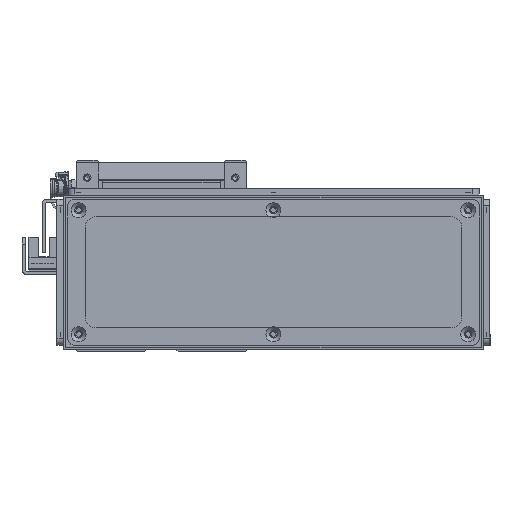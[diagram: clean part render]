
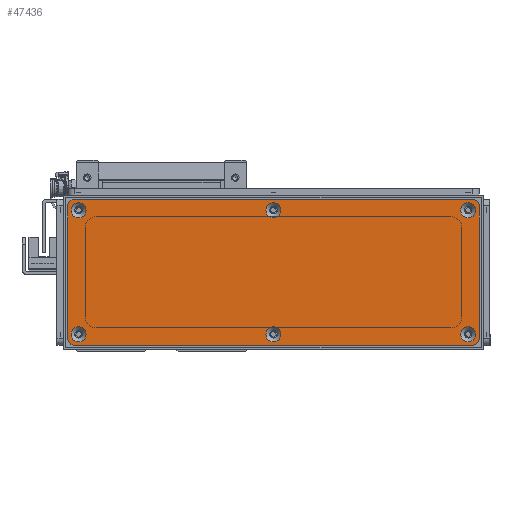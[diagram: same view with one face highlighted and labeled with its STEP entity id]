
A CAD part, front view. The second image highlights one B-rep face of the part: STEP entity #47436.
In plain terms, the highlighted planar face has unit normal (0, -1, 0) as drawn and (0, 0, 1) by its records, which use the part's own axes.
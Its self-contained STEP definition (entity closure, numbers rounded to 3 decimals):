
#2089=FACE_BOUND('',#8442,.T.);
#2090=FACE_BOUND('',#8443,.T.);
#2091=FACE_BOUND('',#8444,.T.);
#2092=FACE_BOUND('',#8445,.T.);
#2093=FACE_BOUND('',#8446,.T.);
#2094=FACE_BOUND('',#8447,.T.);
#2765=PLANE('',#51439);
#5612=FACE_OUTER_BOUND('',#8441,.T.);
#8441=EDGE_LOOP('',(#38723,#38724,#38725,#38726,#38727,#38728,#38729,#38730));
#8442=EDGE_LOOP('',(#38731));
#8443=EDGE_LOOP('',(#38732));
#8444=EDGE_LOOP('',(#38733));
#8445=EDGE_LOOP('',(#38734));
#8446=EDGE_LOOP('',(#38735));
#8447=EDGE_LOOP('',(#38736));
#11721=LINE('',#72791,#16923);
#11724=LINE('',#72799,#16926);
#11727=LINE('',#72807,#16929);
#11730=LINE('',#72814,#16932);
#16923=VECTOR('',#59297,10.);
#16926=VECTOR('',#59306,10.);
#16929=VECTOR('',#59315,10.);
#16932=VECTOR('',#59324,10.);
#21268=CIRCLE('',#51393,3.45);
#21271=CIRCLE('',#51398,3.45);
#21274=CIRCLE('',#51403,3.45);
#21277=CIRCLE('',#51408,3.45);
#21280=CIRCLE('',#51413,3.45);
#21283=CIRCLE('',#51418,3.45);
#21290=CIRCLE('',#51428,3.);
#21291=CIRCLE('',#51431,3.);
#21292=CIRCLE('',#51434,3.);
#21293=CIRCLE('',#51437,3.);
#23530=VERTEX_POINT('',#72707);
#23533=VERTEX_POINT('',#72717);
#23536=VERTEX_POINT('',#72727);
#23539=VERTEX_POINT('',#72737);
#23542=VERTEX_POINT('',#72747);
#23545=VERTEX_POINT('',#72757);
#23556=VERTEX_POINT('',#72784);
#23557=VERTEX_POINT('',#72786);
#23558=VERTEX_POINT('',#72790);
#23559=VERTEX_POINT('',#72794);
#23560=VERTEX_POINT('',#72798);
#23561=VERTEX_POINT('',#72802);
#23562=VERTEX_POINT('',#72806);
#23563=VERTEX_POINT('',#72810);
#28977=EDGE_CURVE('',#23530,#23530,#21268,.T.);
#28982=EDGE_CURVE('',#23533,#23533,#21271,.T.);
#28987=EDGE_CURVE('',#23536,#23536,#21274,.T.);
#28992=EDGE_CURVE('',#23539,#23539,#21277,.T.);
#28997=EDGE_CURVE('',#23542,#23542,#21280,.T.);
#29002=EDGE_CURVE('',#23545,#23545,#21283,.T.);
#29016=EDGE_CURVE('',#23557,#23556,#21290,.T.);
#29018=EDGE_CURVE('',#23558,#23557,#11721,.T.);
#29020=EDGE_CURVE('',#23559,#23558,#21291,.T.);
#29022=EDGE_CURVE('',#23560,#23559,#11724,.T.);
#29024=EDGE_CURVE('',#23561,#23560,#21292,.T.);
#29026=EDGE_CURVE('',#23562,#23561,#11727,.T.);
#29028=EDGE_CURVE('',#23563,#23562,#21293,.T.);
#29030=EDGE_CURVE('',#23556,#23563,#11730,.T.);
#38723=ORIENTED_EDGE('',*,*,#29030,.T.);
#38724=ORIENTED_EDGE('',*,*,#29028,.T.);
#38725=ORIENTED_EDGE('',*,*,#29026,.T.);
#38726=ORIENTED_EDGE('',*,*,#29024,.T.);
#38727=ORIENTED_EDGE('',*,*,#29022,.T.);
#38728=ORIENTED_EDGE('',*,*,#29020,.T.);
#38729=ORIENTED_EDGE('',*,*,#29018,.T.);
#38730=ORIENTED_EDGE('',*,*,#29016,.T.);
#38731=ORIENTED_EDGE('',*,*,#28977,.T.);
#38732=ORIENTED_EDGE('',*,*,#28982,.T.);
#38733=ORIENTED_EDGE('',*,*,#28987,.T.);
#38734=ORIENTED_EDGE('',*,*,#28992,.T.);
#38735=ORIENTED_EDGE('',*,*,#28997,.T.);
#38736=ORIENTED_EDGE('',*,*,#29002,.T.);
#47436=ADVANCED_FACE('',(#5612,#2089,#2090,#2091,#2092,#2093,#2094),#2765,
 .T.);
#51393=AXIS2_PLACEMENT_3D('',#72708,#59205,#59206);
#51398=AXIS2_PLACEMENT_3D('',#72718,#59217,#59218);
#51403=AXIS2_PLACEMENT_3D('',#72728,#59229,#59230);
#51408=AXIS2_PLACEMENT_3D('',#72738,#59241,#59242);
#51413=AXIS2_PLACEMENT_3D('',#72748,#59253,#59254);
#51418=AXIS2_PLACEMENT_3D('',#72758,#59265,#59266);
#51428=AXIS2_PLACEMENT_3D('',#72787,#59292,#59293);
#51431=AXIS2_PLACEMENT_3D('',#72795,#59301,#59302);
#51434=AXIS2_PLACEMENT_3D('',#72803,#59310,#59311);
#51437=AXIS2_PLACEMENT_3D('',#72811,#59319,#59320);
#51439=AXIS2_PLACEMENT_3D('',#72815,#59325,#59326);
#59205=DIRECTION('center_axis',(0.,0.,-1.));
#59206=DIRECTION('ref_axis',(1.,0.,0.));
#59217=DIRECTION('center_axis',(0.,0.,-1.));
#59218=DIRECTION('ref_axis',(1.,0.,0.));
#59229=DIRECTION('center_axis',(0.,0.,-1.));
#59230=DIRECTION('ref_axis',(1.,0.,0.));
#59241=DIRECTION('center_axis',(0.,0.,-1.));
#59242=DIRECTION('ref_axis',(1.,0.,0.));
#59253=DIRECTION('center_axis',(0.,0.,-1.));
#59254=DIRECTION('ref_axis',(1.,0.,0.));
#59265=DIRECTION('center_axis',(0.,0.,-1.));
#59266=DIRECTION('ref_axis',(1.,0.,0.));
#59292=DIRECTION('center_axis',(0.,0.,1.));
#59293=DIRECTION('ref_axis',(0.,1.,0.));
#59297=DIRECTION('',(-1.,0.,0.));
#59301=DIRECTION('center_axis',(0.,0.,1.));
#59302=DIRECTION('ref_axis',(1.,0.,0.));
#59306=DIRECTION('',(0.,1.,0.));
#59310=DIRECTION('center_axis',(0.,0.,1.));
#59311=DIRECTION('ref_axis',(0.,-1.,0.));
#59315=DIRECTION('',(1.,0.,0.));
#59319=DIRECTION('center_axis',(0.,0.,1.));
#59320=DIRECTION('ref_axis',(-1.,0.,0.));
#59324=DIRECTION('',(0.,-1.,0.));
#59325=DIRECTION('center_axis',(0.,0.,1.));
#59326=DIRECTION('ref_axis',(1.,0.,0.));
#72707=CARTESIAN_POINT('',(-3.45,28.5,1.5));
#72708=CARTESIAN_POINT('Origin',(0.,28.5,1.5));
#72717=CARTESIAN_POINT('',(86.05,-28.5,1.5));
#72718=CARTESIAN_POINT('Origin',(89.5,-28.5,1.5));
#72727=CARTESIAN_POINT('',(-92.95,28.5,1.5));
#72728=CARTESIAN_POINT('Origin',(-89.5,28.5,1.5));
#72737=CARTESIAN_POINT('',(86.05,28.5,1.5));
#72738=CARTESIAN_POINT('Origin',(89.5,28.5,1.5));
#72747=CARTESIAN_POINT('',(-92.95,-28.5,1.5));
#72748=CARTESIAN_POINT('Origin',(-89.5,-28.5,1.5));
#72757=CARTESIAN_POINT('',(-3.45,-28.5,1.5));
#72758=CARTESIAN_POINT('Origin',(0.,-28.5,1.5));
#72784=CARTESIAN_POINT('',(-94.5,30.5,1.5));
#72786=CARTESIAN_POINT('',(-91.5,33.5,1.5));
#72787=CARTESIAN_POINT('Origin',(-91.5,30.5,1.5));
#72790=CARTESIAN_POINT('',(91.5,33.5,1.5));
#72791=CARTESIAN_POINT('',(91.5,33.5,1.5));
#72794=CARTESIAN_POINT('',(94.5,30.5,1.5));
#72795=CARTESIAN_POINT('Origin',(91.5,30.5,1.5));
#72798=CARTESIAN_POINT('',(94.5,-30.5,1.5));
#72799=CARTESIAN_POINT('',(94.5,-30.5,1.5));
#72802=CARTESIAN_POINT('',(91.5,-33.5,1.5));
#72803=CARTESIAN_POINT('Origin',(91.5,-30.5,1.5));
#72806=CARTESIAN_POINT('',(-91.5,-33.5,1.5));
#72807=CARTESIAN_POINT('',(-91.5,-33.5,1.5));
#72810=CARTESIAN_POINT('',(-94.5,-30.5,1.5));
#72811=CARTESIAN_POINT('Origin',(-91.5,-30.5,1.5));
#72814=CARTESIAN_POINT('',(-94.5,30.5,1.5));
#72815=CARTESIAN_POINT('Origin',(0.,0.,
1.5));
